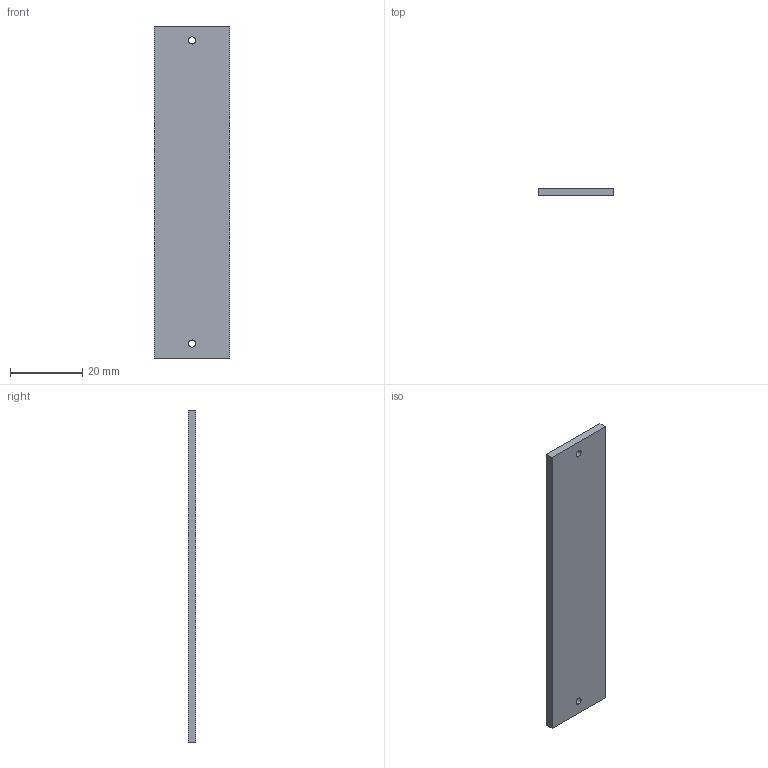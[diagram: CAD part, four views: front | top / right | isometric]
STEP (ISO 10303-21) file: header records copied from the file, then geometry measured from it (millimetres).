
FILE_DESCRIPTION (( 'STEP AP214' ), '1' );
FILE_NAME ('HLBRX-00-080-3-DIFFUSER.STEP', '2021-10-20T07:59:29', ( '' ), ( '' ), 'SwSTEP 2.0', 'SolidWorks 2021', '' );
FILE_SCHEMA (( 'AUTOMOTIVE_DESIGN' ));
Length unit declared in the file: millimetre
Products named in the file (1): HLBRX-00-080-3-DIFFUSER
Bounding box: 20.8 x 2 x 92 mm (x, y, z)
Volume: 3814.6 mm3; surface area: 4291 mm2
Topology: 1 solids, 1 shells, 10 faces, 24 edges, 16 vertices
Faces by surface type: plane 6, cylinder 4
Entity records: 338 total; most frequent: DIRECTION 54, CARTESIAN_POINT 51, ORIENTED_EDGE 48, EDGE_CURVE 24, AXIS2_PLACEMENT_3D 19, LINE 16, VERTEX_POINT 16, VECTOR 16
